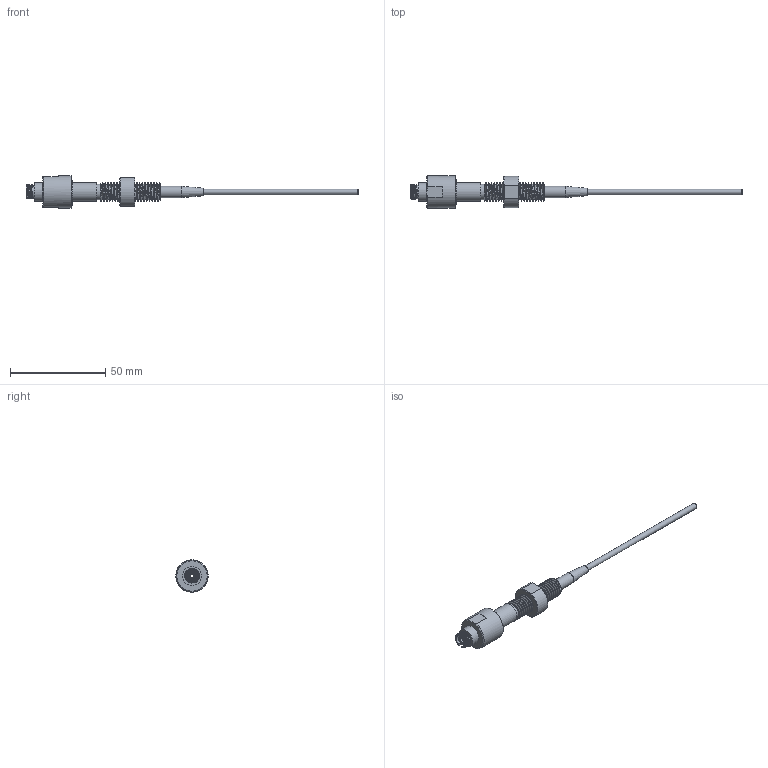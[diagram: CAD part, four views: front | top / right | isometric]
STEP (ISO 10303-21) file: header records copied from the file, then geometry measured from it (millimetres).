
FILE_DESCRIPTION (( 'STEP AP203' ), '1' );
FILE_NAME ('FFFCM10-PT.STEP', '2024-04-19T18:50:56', ( '' ), ( '' ), 'SwSTEP 2.0', 'SolidWorks 2023', '' );
FILE_SCHEMA (( 'CONFIG_CONTROL_DESIGN' ));
Length unit declared in the file: millimetre
Products named in the file (1): FFFCM10-PT
Bounding box: 174.7 x 17 x 17 mm (x, y, z)
Surface area: 7852.1 mm2 (no closed solid volume)
Topology: 0 solids, 9 shells, 106 faces, 267 edges, 173 vertices
Faces by surface type: plane 37, cylinder 31, cone 15, bspline 14, torus 9
Full cylindrical faces by diameter (mm): 2 x1, 2.7 x1, 3 x1, 3.3 x1, 4.4 x1, 6 x1, 6.1 x1, 7.1 x1, 7.4 x1, 8.2 x1, 10 x2, 11 x1, 14.8 x1, 17 x1
Entity records: 13515 total; most frequent: CARTESIAN_POINT 11296, ORIENTED_EDGE 426, DIRECTION 396, EDGE_CURVE 228, AXIS2_PLACEMENT_3D 168, VERTEX_POINT 164, EDGE_LOOP 146, FACE_OUTER_BOUND 127
